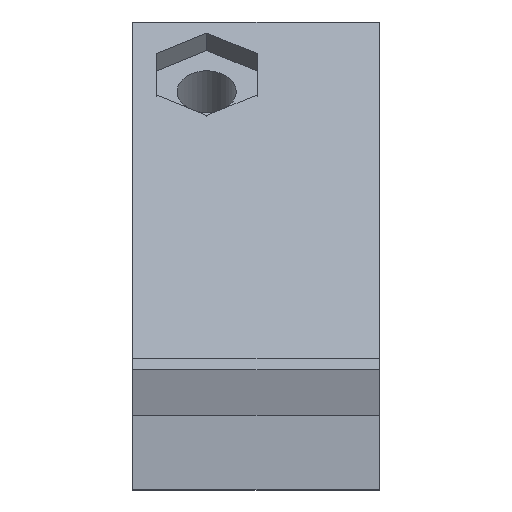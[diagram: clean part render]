
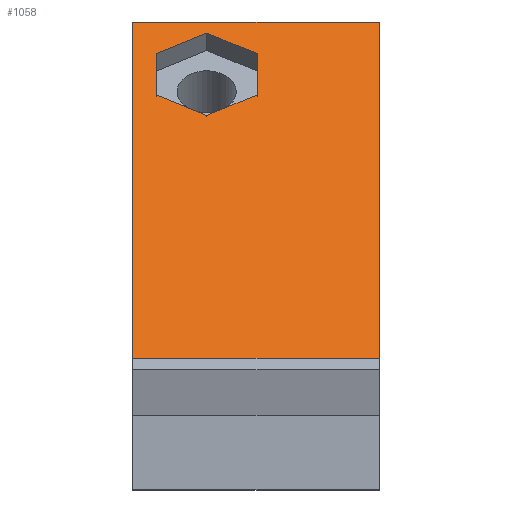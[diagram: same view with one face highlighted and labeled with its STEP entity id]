
A CAD part, top view. The second image highlights one B-rep face of the part: STEP entity #1058.
In plain terms, the highlighted planar face has unit normal (0, 0.707, 0.707).
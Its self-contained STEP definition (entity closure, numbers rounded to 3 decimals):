
#18=FACE_BOUND('',#126,.T.);
#71=FACE_OUTER_BOUND('',#125,.T.);
#125=EDGE_LOOP('',(#905,#906,#907,#908));
#126=EDGE_LOOP('',(#909,#910,#911,#912,#913,#914));
#241=LINE('',#1601,#386);
#246=LINE('',#1610,#391);
#249=LINE('',#1618,#394);
#253=LINE('',#1626,#398);
#256=LINE('',#1632,#401);
#259=LINE('',#1638,#404);
#262=LINE('',#1644,#407);
#265=LINE('',#1649,#410);
#269=LINE('',#1662,#414);
#272=LINE('',#1667,#417);
#386=VECTOR('',#1307,10.);
#391=VECTOR('',#1314,10.);
#394=VECTOR('',#1321,10.);
#398=VECTOR('',#1327,10.);
#401=VECTOR('',#1332,10.);
#404=VECTOR('',#1337,10.);
#407=VECTOR('',#1342,10.);
#410=VECTOR('',#1347,10.);
#414=VECTOR('',#1361,10.);
#417=VECTOR('',#1368,10.);
#494=VERTEX_POINT('',#1598);
#495=VERTEX_POINT('',#1600);
#498=VERTEX_POINT('',#1608);
#500=VERTEX_POINT('',#1616);
#501=VERTEX_POINT('',#1617);
#504=VERTEX_POINT('',#1625);
#506=VERTEX_POINT('',#1631);
#508=VERTEX_POINT('',#1637);
#510=VERTEX_POINT('',#1643);
#514=VERTEX_POINT('',#1659);
#629=EDGE_CURVE('',#494,#495,#241,.T.);
#634=EDGE_CURVE('',#498,#494,#246,.T.);
#637=EDGE_CURVE('',#500,#501,#249,.T.);
#641=EDGE_CURVE('',#504,#500,#253,.T.);
#644=EDGE_CURVE('',#506,#504,#256,.T.);
#647=EDGE_CURVE('',#508,#506,#259,.T.);
#650=EDGE_CURVE('',#510,#508,#262,.T.);
#653=EDGE_CURVE('',#501,#510,#265,.T.);
#659=EDGE_CURVE('',#514,#498,#269,.T.);
#662=EDGE_CURVE('',#514,#495,#272,.F.);
#905=ORIENTED_EDGE('',*,*,#662,.T.);
#906=ORIENTED_EDGE('',*,*,#629,.F.);
#907=ORIENTED_EDGE('',*,*,#634,.F.);
#908=ORIENTED_EDGE('',*,*,#659,.F.);
#909=ORIENTED_EDGE('',*,*,#637,.T.);
#910=ORIENTED_EDGE('',*,*,#653,.T.);
#911=ORIENTED_EDGE('',*,*,#650,.T.);
#912=ORIENTED_EDGE('',*,*,#647,.T.);
#913=ORIENTED_EDGE('',*,*,#644,.T.);
#914=ORIENTED_EDGE('',*,*,#641,.T.);
#1006=PLANE('',#1114);
#1058=ADVANCED_FACE('',(#71,#18),#1006,.F.);
#1114=AXIS2_PLACEMENT_3D('',#1666,#1366,#1367);
#1307=DIRECTION('',(-1.,0.,0.));
#1314=DIRECTION('',(0.,-0.707,0.707));
#1321=DIRECTION('',(0.866,-0.354,0.354));
#1327=DIRECTION('',(0.866,0.354,-0.354));
#1332=DIRECTION('',(0.,0.707,-0.707));
#1337=DIRECTION('',(-0.866,0.354,-0.354));
#1342=DIRECTION('',(-0.866,-0.354,0.354));
#1347=DIRECTION('',(0.,-0.707,0.707));
#1361=DIRECTION('',(1.,0.,0.));
#1366=DIRECTION('center_axis',(0.,-0.707,-0.707));
#1367=DIRECTION('ref_axis',(0.,0.707,-0.707));
#1368=DIRECTION('',(0.,0.707,-0.707));
#1598=CARTESIAN_POINT('',(5.,3.,2.5));
#1600=CARTESIAN_POINT('',(-5.,3.,2.5));
#1601=CARTESIAN_POINT('',(1.125,3.,2.5));
#1608=CARTESIAN_POINT('',(5.,19.,-13.5));
#1610=CARTESIAN_POINT('',(5.,4.828,0.672));
#1616=CARTESIAN_POINT('',(-2.,18.552,-13.052));
#1617=CARTESIAN_POINT('',(0.05,17.716,-12.216));
#1618=CARTESIAN_POINT('',(1.78,17.009,-11.509));
#1625=CARTESIAN_POINT('',(-4.05,17.716,-12.216));
#1626=CARTESIAN_POINT('',(-5.305,17.203,-11.703));
#1631=CARTESIAN_POINT('',(-4.05,16.042,-10.542));
#1632=CARTESIAN_POINT('',(-4.05,12.349,-6.849));
#1637=CARTESIAN_POINT('',(-2.,15.205,-9.705));
#1638=CARTESIAN_POINT('',(0.755,14.08,-8.58));
#1643=CARTESIAN_POINT('',(0.05,16.042,-10.542));
#1644=CARTESIAN_POINT('',(-2.23,15.111,-9.611));
#1649=CARTESIAN_POINT('',(0.05,13.186,-7.686));
#1659=CARTESIAN_POINT('',(-5.,19.,-13.5));
#1662=CARTESIAN_POINT('',(0.,19.,-13.5));
#1666=CARTESIAN_POINT('Origin',(0.,8.657,
-3.157));
#1667=CARTESIAN_POINT('',(-5.,4.828,0.672));
